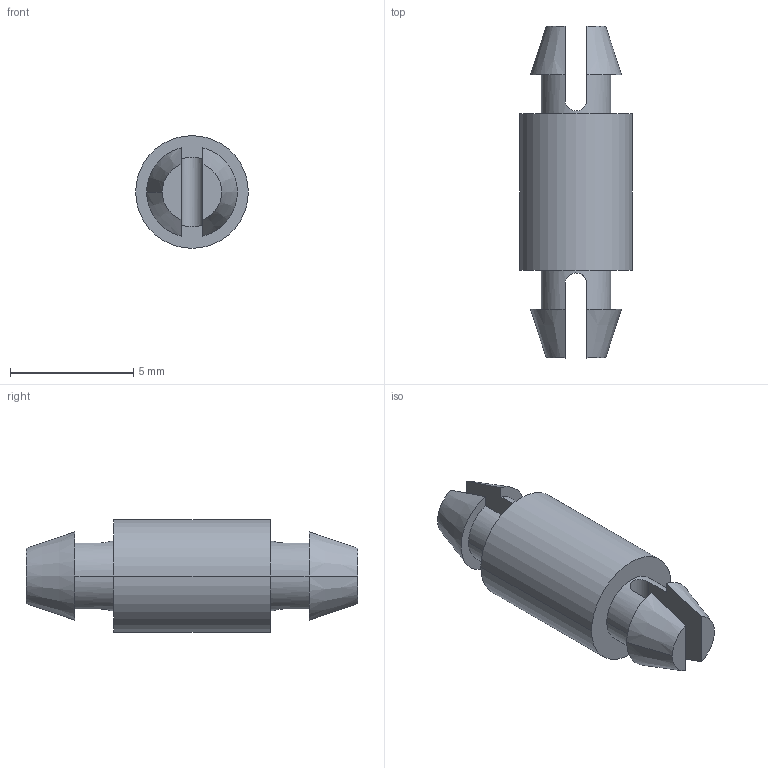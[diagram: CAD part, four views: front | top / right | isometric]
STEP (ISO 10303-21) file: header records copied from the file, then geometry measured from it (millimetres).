
FILE_DESCRIPTION (( 'STEP AP214' ), '1' );
FILE_NAME ('9020.STEP', '2007-12-19T18:34:43', ( 'Richard Maletta' ), ( '' ), 'SwSTEP 2.0', 'SolidWorks 2007', '' );
FILE_SCHEMA (( 'AUTOMOTIVE_DESIGN' ));
Length unit declared in the file: inch
Products named in the file (1): 9020
Bounding box: 4.57 x 13.46 x 4.57 mm (x, y, z)
Volume: 135.9 mm3; surface area: 220.7 mm2
Topology: 1 solids, 1 shells, 28 faces, 72 edges, 48 vertices
Faces by surface type: plane 14, cylinder 8, cone 6
Entity records: 927 total; most frequent: CARTESIAN_POINT 209, DIRECTION 146, ORIENTED_EDGE 144, EDGE_CURVE 72, AXIS2_PLACEMENT_3D 57, VERTEX_POINT 48, VECTOR 32, LINE 32
